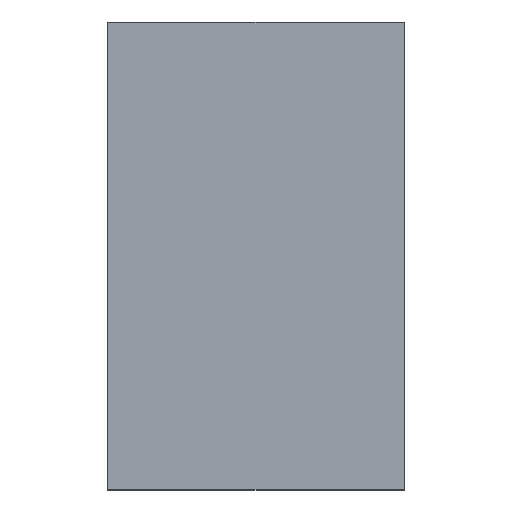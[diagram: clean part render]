
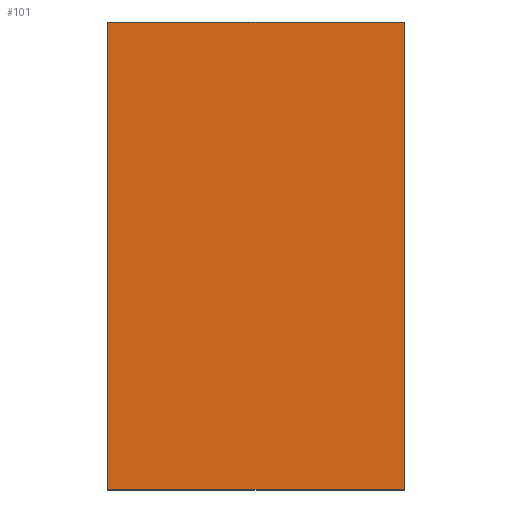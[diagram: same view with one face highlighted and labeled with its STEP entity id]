
A CAD part, top view. The second image highlights one B-rep face of the part: STEP entity #101.
In plain terms, the highlighted planar face has unit normal (0, 0, 1).
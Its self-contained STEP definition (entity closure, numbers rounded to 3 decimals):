
#15=FACE_OUTER_BOUND('',#21,.T.);
#21=EDGE_LOOP('',(#71,#72,#73,#74));
#27=LINE('',#157,#39);
#28=LINE('',#159,#40);
#29=LINE('',#161,#41);
#30=LINE('',#162,#42);
#39=VECTOR('',#131,10.);
#40=VECTOR('',#132,10.);
#41=VECTOR('',#133,10.);
#42=VECTOR('',#134,10.);
#51=VERTEX_POINT('',#155);
#52=VERTEX_POINT('',#156);
#53=VERTEX_POINT('',#158);
#54=VERTEX_POINT('',#160);
#59=EDGE_CURVE('',#51,#52,#27,.T.);
#60=EDGE_CURVE('',#52,#53,#28,.T.);
#61=EDGE_CURVE('',#53,#54,#29,.T.);
#62=EDGE_CURVE('',#54,#51,#30,.T.);
#71=ORIENTED_EDGE('',*,*,#59,.T.);
#72=ORIENTED_EDGE('',*,*,#60,.T.);
#73=ORIENTED_EDGE('',*,*,#61,.T.);
#74=ORIENTED_EDGE('',*,*,#62,.T.);
#95=PLANE('',#121);
#101=ADVANCED_FACE('',(#15),#95,.T.);
#121=AXIS2_PLACEMENT_3D('',#154,#129,#130);
#129=DIRECTION('center_axis',(0.,0.,1.));
#130=DIRECTION('ref_axis',(1.,0.,0.));
#131=DIRECTION('',(0.,1.,0.));
#132=DIRECTION('',(-1.,0.,0.));
#133=DIRECTION('',(0.,-1.,0.));
#134=DIRECTION('',(1.,0.,0.));
#154=CARTESIAN_POINT('Origin',(-34.35,17.,-12.2));
#155=CARTESIAN_POINT('',(-31.5,12.5,-12.2));
#156=CARTESIAN_POINT('',(-31.5,21.5,-12.2));
#157=CARTESIAN_POINT('',(-31.5,17.,-12.2));
#158=CARTESIAN_POINT('',(-37.2,21.5,-12.2));
#159=CARTESIAN_POINT('',(-34.35,21.5,-12.2));
#160=CARTESIAN_POINT('',(-37.2,12.5,-12.2));
#161=CARTESIAN_POINT('',(-37.2,17.,-12.2));
#162=CARTESIAN_POINT('',(-34.35,12.5,-12.2));
